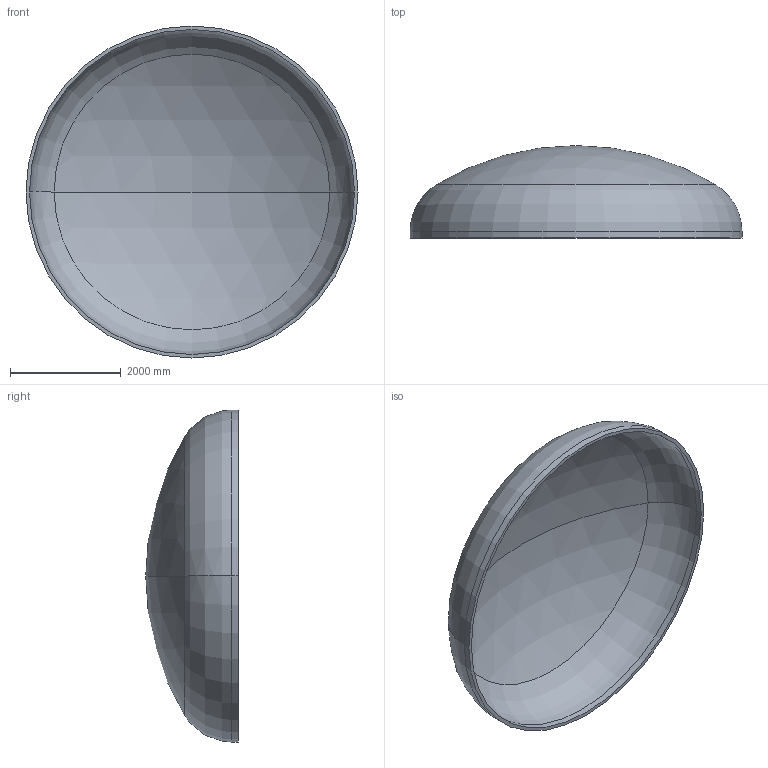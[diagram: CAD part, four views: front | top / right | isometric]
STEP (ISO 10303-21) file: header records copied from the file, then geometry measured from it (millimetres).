
FILE_DESCRIPTION (( 'STEP AP203' ), '1' );
FILE_NAME ('DIN 28013 Korbbogenform_-_Boden DIN 28013 - 6000 x 120 - I - s=64.step', '2016-07-04T10:37:46', ( '' ), ( '' ), 'SwSTEP 2.0', 'SolidWorks 2013', '' );
FILE_SCHEMA (( 'CONFIG_CONTROL_DESIGN' ));
Length unit declared in the file: millimetre
Products named in the file (1): DIN 28013 Korbbogenform_-_Boden DIN 28013 - 6000 x 120 - I - s=64
Bounding box: 6000 x 1671.67 x 6000 mm (x, y, z)
Volume: 2614851401.4 mm3; surface area: 82916157.6 mm2
Topology: 1 solids, 1 shells, 13 faces, 24 edges, 14 vertices
Faces by surface type: torus 4, cylinder 4, sphere 4, plane 1
Entity records: 407 total; most frequent: DIRECTION 72, CARTESIAN_POINT 52, ORIENTED_EDGE 48, AXIS2_PLACEMENT_3D 34, EDGE_CURVE 24, CIRCLE 20, EDGE_LOOP 14, VERTEX_POINT 14
